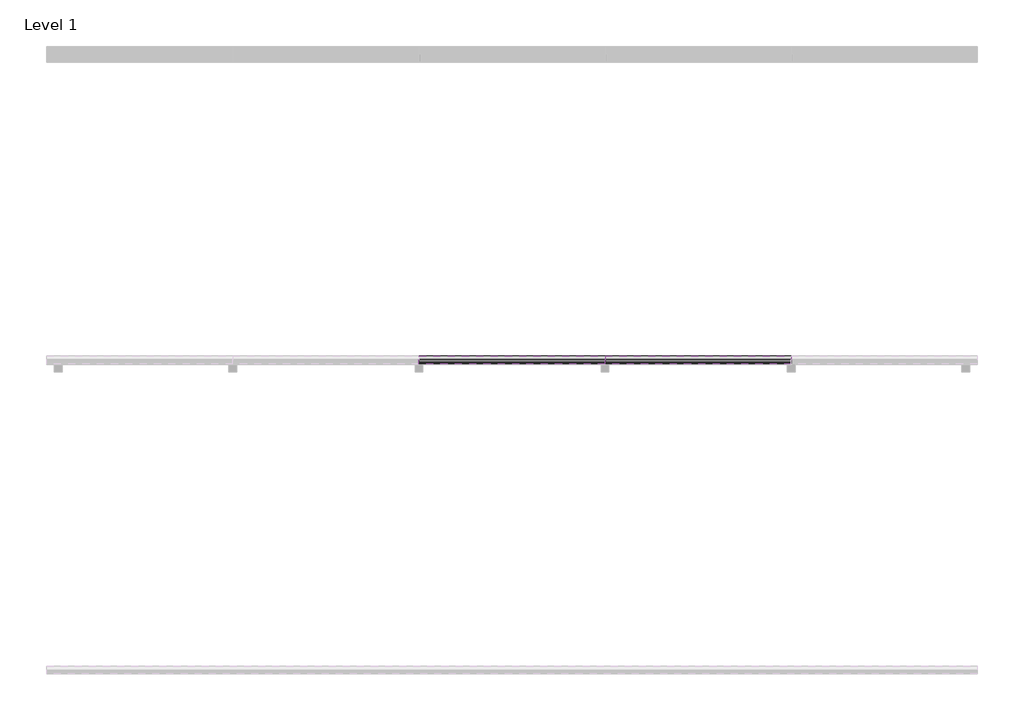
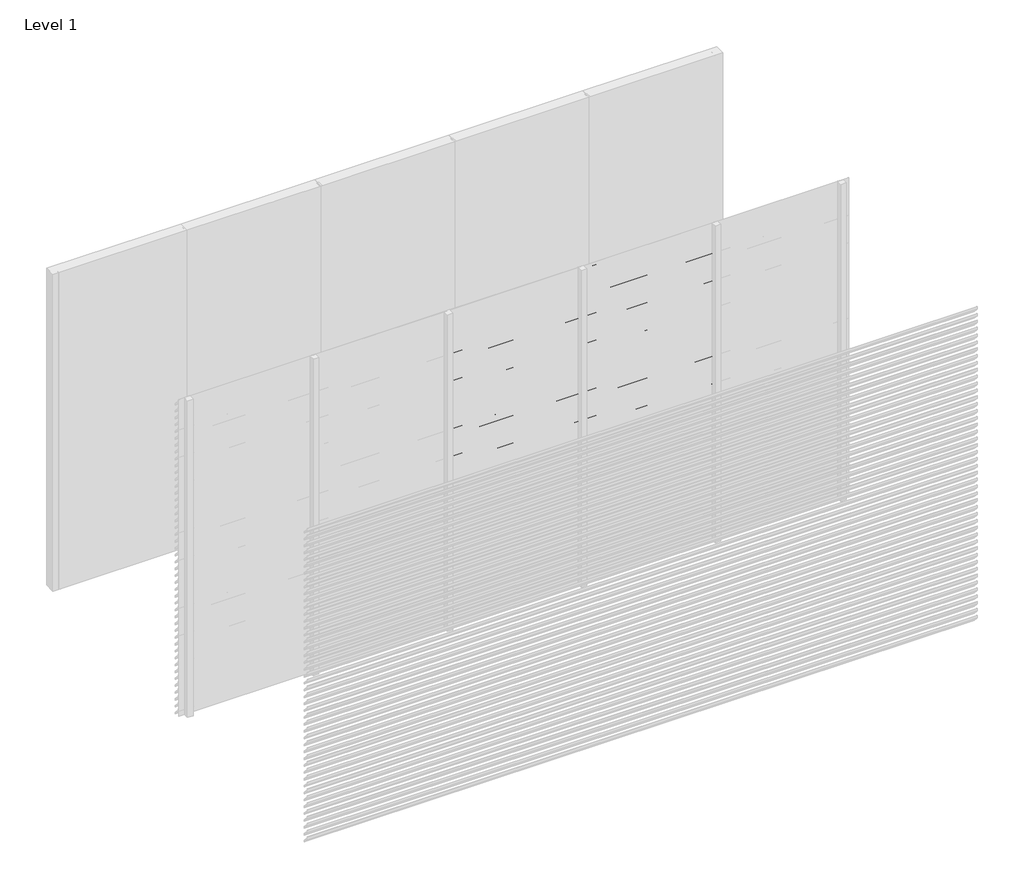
# One storey, part 6 of 12: 97 proxies.
"""IFC4 building model written with IfcOpenShell, lengths in millimetres."""

from ifc_helpers import new_model, si_unit, frame, origin, place, context, project, spatial, polyline, outline, extrude, element, save

model = new_model("IFC4")

# Units and contexts
model_context = context("Model", 3, world=origin())
ifc_project = project(units=[si_unit("LENGTHUNIT", "METRE", prefix="MILLI")], contexts=[model_context])

# Site, building, storey
site = spatial("IfcSite", under=ifc_project)
building = spatial("IfcBuilding", under=site)
storey = spatial("IfcBuildingStorey", under=building, Name="Level 1", Elevation=0.0)

# Proxies
placement = place(None, origin())
element("IfcBuildingElementProxy", 1, Name="Wall Sweeps", at=placement, inside=storey, context=model_context, shape_type="SweptSolid", body=[
    extrude(outline(polyline([(-11995.0, 65.0), (-11995.0, 55.7409854), (-11946.0, 5.0), (-11946.0, -11.0), (-11997.0, 41.812046), (-11997.0, 65.0), (-11995.0, 65.0)])), frame((1200.0, 0.0, 0.0), z_axis=(1.0, 0.0, 0.0), x_axis=(0.0, 1.0, 0.0)), (0.0, 0.0, 1.0), 1200.0),
])
element("IfcBuildingElementProxy", 2, Name="Wall Sweeps", at=placement, inside=storey, context=model_context, shape_type="SweptSolid", body=[
    extrude(outline(polyline([(-11995.0, 2990.0), (-11995.0, 2980.7409854), (-11946.0, 2930.0), (-11946.0, 2914.0), (-11997.0, 2966.812046), (-11997.0, 2990.0), (-11995.0, 2990.0)])), frame((2400.0, 0.0, 0.0), z_axis=(1.0, 0.0, 0.0), x_axis=(0.0, 1.0, 0.0)), (0.0, 0.0, 1.0), 1200.0),
])
element("IfcBuildingElementProxy", 3, Name="Wall Sweeps", at=placement, inside=storey, context=model_context, shape_type="SweptSolid", body=[
    extrude(outline(polyline([(-11995.0, 2925.0), (-11995.0, 2915.7409854), (-11946.0, 2865.0), (-11946.0, 2849.0), (-11997.0, 2901.812046), (-11997.0, 2925.0), (-11995.0, 2925.0)])), frame((2400.0, 0.0, 0.0), z_axis=(1.0, 0.0, 0.0), x_axis=(0.0, 1.0, 0.0)), (0.0, 0.0, 1.0), 1200.0),
])
element("IfcBuildingElementProxy", 4, Name="Wall Sweeps", at=placement, inside=storey, context=model_context, shape_type="SweptSolid", body=[
    extrude(outline(polyline([(-11995.0, 2860.0), (-11995.0, 2850.7409854), (-11946.0, 2800.0), (-11946.0, 2784.0), (-11997.0, 2836.812046), (-11997.0, 2860.0), (-11995.0, 2860.0)])), frame((2400.0, 0.0, 0.0), z_axis=(1.0, 0.0, 0.0), x_axis=(0.0, 1.0, 0.0)), (0.0, 0.0, 1.0), 1200.0),
])
element("IfcBuildingElementProxy", 5, Name="Wall Sweeps", at=placement, inside=storey, context=model_context, shape_type="SweptSolid", body=[
    extrude(outline(polyline([(-11995.0, 2795.0), (-11995.0, 2785.7409854), (-11946.0, 2735.0), (-11946.0, 2719.0), (-11997.0, 2771.812046), (-11997.0, 2795.0), (-11995.0, 2795.0)])), frame((2400.0, 0.0, 0.0), z_axis=(1.0, 0.0, 0.0), x_axis=(0.0, 1.0, 0.0)), (0.0, 0.0, 1.0), 1200.0),
])
element("IfcBuildingElementProxy", 6, Name="Wall Sweeps", at=placement, inside=storey, context=model_context, shape_type="SweptSolid", body=[
    extrude(outline(polyline([(-11995.0, 2730.0), (-11995.0, 2720.7409854), (-11946.0, 2670.0), (-11946.0, 2654.0), (-11997.0, 2706.812046), (-11997.0, 2730.0), (-11995.0, 2730.0)])), frame((2400.0, 0.0, 0.0), z_axis=(1.0, 0.0, 0.0), x_axis=(0.0, 1.0, 0.0)), (0.0, 0.0, 1.0), 1200.0),
])
element("IfcBuildingElementProxy", 7, Name="Wall Sweeps", at=placement, inside=storey, context=model_context, shape_type="SweptSolid", body=[
    extrude(outline(polyline([(-11995.0, 2665.0), (-11995.0, 2655.7409854), (-11946.0, 2605.0), (-11946.0, 2589.0), (-11997.0, 2641.812046), (-11997.0, 2665.0), (-11995.0, 2665.0)])), frame((2400.0, 0.0, 0.0), z_axis=(1.0, 0.0, 0.0), x_axis=(0.0, 1.0, 0.0)), (0.0, 0.0, 1.0), 1200.0),
])
element("IfcBuildingElementProxy", 8, Name="Wall Sweeps", at=placement, inside=storey, context=model_context, shape_type="SweptSolid", body=[
    extrude(outline(polyline([(-11995.0, 2600.0), (-11995.0, 2590.7409854), (-11946.0, 2540.0), (-11946.0, 2524.0), (-11997.0, 2576.812046), (-11997.0, 2600.0), (-11995.0, 2600.0)])), frame((2400.0, 0.0, 0.0), z_axis=(1.0, 0.0, 0.0), x_axis=(0.0, 1.0, 0.0)), (0.0, 0.0, 1.0), 1200.0),
])
element("IfcBuildingElementProxy", 9, Name="Wall Sweeps", at=placement, inside=storey, context=model_context, shape_type="SweptSolid", body=[
    extrude(outline(polyline([(-11995.0, 2535.0), (-11995.0, 2525.7409854), (-11946.0, 2475.0), (-11946.0, 2459.0), (-11997.0, 2511.812046), (-11997.0, 2535.0), (-11995.0, 2535.0)])), frame((2400.0, 0.0, 0.0), z_axis=(1.0, 0.0, 0.0), x_axis=(0.0, 1.0, 0.0)), (0.0, 0.0, 1.0), 1200.0),
])
element("IfcBuildingElementProxy", 10, Name="Wall Sweeps", at=placement, inside=storey, context=model_context, shape_type="SweptSolid", body=[
    extrude(outline(polyline([(-11995.0, 2470.0), (-11995.0, 2460.7409854), (-11946.0, 2410.0), (-11946.0, 2394.0), (-11997.0, 2446.812046), (-11997.0, 2470.0), (-11995.0, 2470.0)])), frame((2400.0, 0.0, 0.0), z_axis=(1.0, 0.0, 0.0), x_axis=(0.0, 1.0, 0.0)), (0.0, 0.0, 1.0), 1200.0),
])
element("IfcBuildingElementProxy", 11, Name="Wall Sweeps", at=placement, inside=storey, context=model_context, shape_type="SweptSolid", body=[
    extrude(outline(polyline([(-11995.0, 2405.0), (-11995.0, 2395.7409854), (-11946.0, 2345.0), (-11946.0, 2329.0), (-11997.0, 2381.812046), (-11997.0, 2405.0), (-11995.0, 2405.0)])), frame((2400.0, 0.0, 0.0), z_axis=(1.0, 0.0, 0.0), x_axis=(0.0, 1.0, 0.0)), (0.0, 0.0, 1.0), 1200.0),
])
element("IfcBuildingElementProxy", 12, Name="Wall Sweeps", at=placement, inside=storey, context=model_context, shape_type="SweptSolid", body=[
    extrude(outline(polyline([(-11995.0, 2340.0), (-11995.0, 2330.7409854), (-11946.0, 2280.0), (-11946.0, 2264.0), (-11997.0, 2316.812046), (-11997.0, 2340.0), (-11995.0, 2340.0)])), frame((2400.0, 0.0, 0.0), z_axis=(1.0, 0.0, 0.0), x_axis=(0.0, 1.0, 0.0)), (0.0, 0.0, 1.0), 1200.0),
])
element("IfcBuildingElementProxy", 13, Name="Wall Sweeps", at=placement, inside=storey, context=model_context, shape_type="SweptSolid", body=[
    extrude(outline(polyline([(-11995.0, 2275.0), (-11995.0, 2265.7409854), (-11946.0, 2215.0), (-11946.0, 2199.0), (-11997.0, 2251.812046), (-11997.0, 2275.0), (-11995.0, 2275.0)])), frame((2400.0, 0.0, 0.0), z_axis=(1.0, 0.0, 0.0), x_axis=(0.0, 1.0, 0.0)), (0.0, 0.0, 1.0), 1200.0),
])
element("IfcBuildingElementProxy", 14, Name="Wall Sweeps", at=placement, inside=storey, context=model_context, shape_type="SweptSolid", body=[
    extrude(outline(polyline([(-11995.0, 2210.0), (-11995.0, 2200.7409854), (-11946.0, 2150.0), (-11946.0, 2134.0), (-11997.0, 2186.812046), (-11997.0, 2210.0), (-11995.0, 2210.0)])), frame((2400.0, 0.0, 0.0), z_axis=(1.0, 0.0, 0.0), x_axis=(0.0, 1.0, 0.0)), (0.0, 0.0, 1.0), 1200.0),
])
element("IfcBuildingElementProxy", 15, Name="Wall Sweeps", at=placement, inside=storey, context=model_context, shape_type="SweptSolid", body=[
    extrude(outline(polyline([(-11995.0, 2145.0), (-11995.0, 2135.7409854), (-11946.0, 2085.0), (-11946.0, 2069.0), (-11997.0, 2121.812046), (-11997.0, 2145.0), (-11995.0, 2145.0)])), frame((2400.0, 0.0, 0.0), z_axis=(1.0, 0.0, 0.0), x_axis=(0.0, 1.0, 0.0)), (0.0, 0.0, 1.0), 1200.0),
])
element("IfcBuildingElementProxy", 16, Name="Wall Sweeps", at=placement, inside=storey, context=model_context, shape_type="SweptSolid", body=[
    extrude(outline(polyline([(-11995.0, 2080.0), (-11995.0, 2070.7409854), (-11946.0, 2020.0), (-11946.0, 2004.0), (-11997.0, 2056.812046), (-11997.0, 2080.0), (-11995.0, 2080.0)])), frame((2400.0, 0.0, 0.0), z_axis=(1.0, 0.0, 0.0), x_axis=(0.0, 1.0, 0.0)), (0.0, 0.0, 1.0), 1200.0),
])
element("IfcBuildingElementProxy", 17, Name="Wall Sweeps", at=placement, inside=storey, context=model_context, shape_type="SweptSolid", body=[
    extrude(outline(polyline([(-11995.0, 2015.0), (-11995.0, 2005.7409854), (-11946.0, 1955.0), (-11946.0, 1939.0), (-11997.0, 1991.812046), (-11997.0, 2015.0), (-11995.0, 2015.0)])), frame((2400.0, 0.0, 0.0), z_axis=(1.0, 0.0, 0.0), x_axis=(0.0, 1.0, 0.0)), (0.0, 0.0, 1.0), 1200.0),
])
element("IfcBuildingElementProxy", 18, Name="Wall Sweeps", at=placement, inside=storey, context=model_context, shape_type="SweptSolid", body=[
    extrude(outline(polyline([(-11995.0, 1950.0), (-11995.0, 1940.7409854), (-11946.0, 1890.0), (-11946.0, 1874.0), (-11997.0, 1926.812046), (-11997.0, 1950.0), (-11995.0, 1950.0)])), frame((2400.0, 0.0, 0.0), z_axis=(1.0, 0.0, 0.0), x_axis=(0.0, 1.0, 0.0)), (0.0, 0.0, 1.0), 1200.0),
])
element("IfcBuildingElementProxy", 19, Name="Wall Sweeps", at=placement, inside=storey, context=model_context, shape_type="SweptSolid", body=[
    extrude(outline(polyline([(-11995.0, 1885.0), (-11995.0, 1875.7409854), (-11946.0, 1825.0), (-11946.0, 1809.0), (-11997.0, 1861.812046), (-11997.0, 1885.0), (-11995.0, 1885.0)])), frame((2400.0, 0.0, 0.0), z_axis=(1.0, 0.0, 0.0), x_axis=(0.0, 1.0, 0.0)), (0.0, 0.0, 1.0), 1200.0),
])
element("IfcBuildingElementProxy", 20, Name="Wall Sweeps", at=placement, inside=storey, context=model_context, shape_type="SweptSolid", body=[
    extrude(outline(polyline([(-11995.0, 1820.0), (-11995.0, 1810.7409854), (-11946.0, 1760.0), (-11946.0, 1744.0), (-11997.0, 1796.812046), (-11997.0, 1820.0), (-11995.0, 1820.0)])), frame((2400.0, 0.0, 0.0), z_axis=(1.0, 0.0, 0.0), x_axis=(0.0, 1.0, 0.0)), (0.0, 0.0, 1.0), 1200.0),
])
element("IfcBuildingElementProxy", 21, Name="Wall Sweeps", at=placement, inside=storey, context=model_context, shape_type="SweptSolid", body=[
    extrude(outline(polyline([(-11995.0, 1755.0), (-11995.0, 1745.7409854), (-11946.0, 1695.0), (-11946.0, 1679.0), (-11997.0, 1731.812046), (-11997.0, 1755.0), (-11995.0, 1755.0)])), frame((2400.0, 0.0, 0.0), z_axis=(1.0, 0.0, 0.0), x_axis=(0.0, 1.0, 0.0)), (0.0, 0.0, 1.0), 1200.0),
])
element("IfcBuildingElementProxy", 22, Name="Wall Sweeps", at=placement, inside=storey, context=model_context, shape_type="SweptSolid", body=[
    extrude(outline(polyline([(-11995.0, 1690.0), (-11995.0, 1680.7409854), (-11946.0, 1630.0), (-11946.0, 1614.0), (-11997.0, 1666.812046), (-11997.0, 1690.0), (-11995.0, 1690.0)])), frame((2400.0, 0.0, 0.0), z_axis=(1.0, 0.0, 0.0), x_axis=(0.0, 1.0, 0.0)), (0.0, 0.0, 1.0), 1200.0),
])
element("IfcBuildingElementProxy", 23, Name="Wall Sweeps", at=placement, inside=storey, context=model_context, shape_type="SweptSolid", body=[
    extrude(outline(polyline([(-11995.0, 1625.0), (-11995.0, 1615.7409854), (-11946.0, 1565.0), (-11946.0, 1549.0), (-11997.0, 1601.812046), (-11997.0, 1625.0), (-11995.0, 1625.0)])), frame((2400.0, 0.0, 0.0), z_axis=(1.0, 0.0, 0.0), x_axis=(0.0, 1.0, 0.0)), (0.0, 0.0, 1.0), 1200.0),
])
element("IfcBuildingElementProxy", 24, Name="Wall Sweeps", at=placement, inside=storey, context=model_context, shape_type="SweptSolid", body=[
    extrude(outline(polyline([(-11995.0, 1560.0), (-11995.0, 1550.7409854), (-11946.0, 1500.0), (-11946.0, 1484.0), (-11997.0, 1536.812046), (-11997.0, 1560.0), (-11995.0, 1560.0)])), frame((2400.0, 0.0, 0.0), z_axis=(1.0, 0.0, 0.0), x_axis=(0.0, 1.0, 0.0)), (0.0, 0.0, 1.0), 1200.0),
])
element("IfcBuildingElementProxy", 25, Name="Wall Sweeps", at=placement, inside=storey, context=model_context, shape_type="SweptSolid", body=[
    extrude(outline(polyline([(-11995.0, 1495.0), (-11995.0, 1485.7409854), (-11946.0, 1435.0), (-11946.0, 1419.0), (-11997.0, 1471.812046), (-11997.0, 1495.0), (-11995.0, 1495.0)])), frame((2400.0, 0.0, 0.0), z_axis=(1.0, 0.0, 0.0), x_axis=(0.0, 1.0, 0.0)), (0.0, 0.0, 1.0), 1200.0),
])
element("IfcBuildingElementProxy", 26, Name="Wall Sweeps", at=placement, inside=storey, context=model_context, shape_type="SweptSolid", body=[
    extrude(outline(polyline([(-11995.0, 1430.0), (-11995.0, 1420.7409854), (-11946.0, 1370.0), (-11946.0, 1354.0), (-11997.0, 1406.812046), (-11997.0, 1430.0), (-11995.0, 1430.0)])), frame((2400.0, 0.0, 0.0), z_axis=(1.0, 0.0, 0.0), x_axis=(0.0, 1.0, 0.0)), (0.0, 0.0, 1.0), 1200.0),
])
element("IfcBuildingElementProxy", 27, Name="Wall Sweeps", at=placement, inside=storey, context=model_context, shape_type="SweptSolid", body=[
    extrude(outline(polyline([(-11995.0, 1365.0), (-11995.0, 1355.7409854), (-11946.0, 1305.0), (-11946.0, 1289.0), (-11997.0, 1341.812046), (-11997.0, 1365.0), (-11995.0, 1365.0)])), frame((2400.0, 0.0, 0.0), z_axis=(1.0, 0.0, 0.0), x_axis=(0.0, 1.0, 0.0)), (0.0, 0.0, 1.0), 1200.0),
])
element("IfcBuildingElementProxy", 28, Name="Wall Sweeps", at=placement, inside=storey, context=model_context, shape_type="SweptSolid", body=[
    extrude(outline(polyline([(-11995.0, 1300.0), (-11995.0, 1290.7409854), (-11946.0, 1240.0), (-11946.0, 1224.0), (-11997.0, 1276.812046), (-11997.0, 1300.0), (-11995.0, 1300.0)])), frame((2400.0, 0.0, 0.0), z_axis=(1.0, 0.0, 0.0), x_axis=(0.0, 1.0, 0.0)), (0.0, 0.0, 1.0), 1200.0),
])
element("IfcBuildingElementProxy", 29, Name="Wall Sweeps", at=placement, inside=storey, context=model_context, shape_type="SweptSolid", body=[
    extrude(outline(polyline([(-11995.0, 1235.0), (-11995.0, 1225.7409854), (-11946.0, 1175.0), (-11946.0, 1159.0), (-11997.0, 1211.812046), (-11997.0, 1235.0), (-11995.0, 1235.0)])), frame((2400.0, 0.0, 0.0), z_axis=(1.0, 0.0, 0.0), x_axis=(0.0, 1.0, 0.0)), (0.0, 0.0, 1.0), 1200.0),
])
element("IfcBuildingElementProxy", 30, Name="Wall Sweeps", at=placement, inside=storey, context=model_context, shape_type="SweptSolid", body=[
    extrude(outline(polyline([(-11995.0, 1170.0), (-11995.0, 1160.7409854), (-11946.0, 1110.0), (-11946.0, 1094.0), (-11997.0, 1146.812046), (-11997.0, 1170.0), (-11995.0, 1170.0)])), frame((2400.0, 0.0, 0.0), z_axis=(1.0, 0.0, 0.0), x_axis=(0.0, 1.0, 0.0)), (0.0, 0.0, 1.0), 1200.0),
])
element("IfcBuildingElementProxy", 31, Name="Wall Sweeps", at=placement, inside=storey, context=model_context, shape_type="SweptSolid", body=[
    extrude(outline(polyline([(-11995.0, 1105.0), (-11995.0, 1095.7409854), (-11946.0, 1045.0), (-11946.0, 1029.0), (-11997.0, 1081.812046), (-11997.0, 1105.0), (-11995.0, 1105.0)])), frame((2400.0, 0.0, 0.0), z_axis=(1.0, 0.0, 0.0), x_axis=(0.0, 1.0, 0.0)), (0.0, 0.0, 1.0), 1200.0),
])
element("IfcBuildingElementProxy", 32, Name="Wall Sweeps", at=placement, inside=storey, context=model_context, shape_type="SweptSolid", body=[
    extrude(outline(polyline([(-11995.0, 1040.0), (-11995.0, 1030.7409854), (-11946.0, 980.0), (-11946.0, 964.0), (-11997.0, 1016.812046), (-11997.0, 1040.0), (-11995.0, 1040.0)])), frame((2400.0, 0.0, 0.0), z_axis=(1.0, 0.0, 0.0), x_axis=(0.0, 1.0, 0.0)), (0.0, 0.0, 1.0), 1200.0),
])
element("IfcBuildingElementProxy", 33, Name="Wall Sweeps", at=placement, inside=storey, context=model_context, shape_type="SweptSolid", body=[
    extrude(outline(polyline([(-11995.0, 975.0), (-11995.0, 965.7409854), (-11946.0, 915.0), (-11946.0, 899.0), (-11997.0, 951.812046), (-11997.0, 975.0), (-11995.0, 975.0)])), frame((2400.0, 0.0, 0.0), z_axis=(1.0, 0.0, 0.0), x_axis=(0.0, 1.0, 0.0)), (0.0, 0.0, 1.0), 1200.0),
])
element("IfcBuildingElementProxy", 34, Name="Wall Sweeps", at=placement, inside=storey, context=model_context, shape_type="SweptSolid", body=[
    extrude(outline(polyline([(-11995.0, 910.0), (-11995.0, 900.7409854), (-11946.0, 850.0), (-11946.0, 834.0), (-11997.0, 886.812046), (-11997.0, 910.0), (-11995.0, 910.0)])), frame((2400.0, 0.0, 0.0), z_axis=(1.0, 0.0, 0.0), x_axis=(0.0, 1.0, 0.0)), (0.0, 0.0, 1.0), 1200.0),
])
element("IfcBuildingElementProxy", 35, Name="Wall Sweeps", at=placement, inside=storey, context=model_context, shape_type="SweptSolid", body=[
    extrude(outline(polyline([(-11995.0, 845.0), (-11995.0, 835.7409854), (-11946.0, 785.0), (-11946.0, 769.0), (-11997.0, 821.812046), (-11997.0, 845.0), (-11995.0, 845.0)])), frame((2400.0, 0.0, 0.0), z_axis=(1.0, 0.0, 0.0), x_axis=(0.0, 1.0, 0.0)), (0.0, 0.0, 1.0), 1200.0),
])
element("IfcBuildingElementProxy", 36, Name="Wall Sweeps", at=placement, inside=storey, context=model_context, shape_type="SweptSolid", body=[
    extrude(outline(polyline([(-11995.0, 780.0), (-11995.0, 770.7409854), (-11946.0, 720.0), (-11946.0, 704.0), (-11997.0, 756.812046), (-11997.0, 780.0), (-11995.0, 780.0)])), frame((2400.0, 0.0, 0.0), z_axis=(1.0, 0.0, 0.0), x_axis=(0.0, 1.0, 0.0)), (0.0, 0.0, 1.0), 1200.0),
])
element("IfcBuildingElementProxy", 37, Name="Wall Sweeps", at=placement, inside=storey, context=model_context, shape_type="SweptSolid", body=[
    extrude(outline(polyline([(-11995.0, 715.0), (-11995.0, 705.7409854), (-11946.0, 655.0), (-11946.0, 639.0), (-11997.0, 691.812046), (-11997.0, 715.0), (-11995.0, 715.0)])), frame((2400.0, 0.0, 0.0), z_axis=(1.0, 0.0, 0.0), x_axis=(0.0, 1.0, 0.0)), (0.0, 0.0, 1.0), 1200.0),
])
element("IfcBuildingElementProxy", 38, Name="Wall Sweeps", at=placement, inside=storey, context=model_context, shape_type="SweptSolid", body=[
    extrude(outline(polyline([(-11995.0, 650.0), (-11995.0, 640.7409854), (-11946.0, 590.0), (-11946.0, 574.0), (-11997.0, 626.812046), (-11997.0, 650.0), (-11995.0, 650.0)])), frame((2400.0, 0.0, 0.0), z_axis=(1.0, 0.0, 0.0), x_axis=(0.0, 1.0, 0.0)), (0.0, 0.0, 1.0), 1200.0),
])
element("IfcBuildingElementProxy", 39, Name="Wall Sweeps", at=placement, inside=storey, context=model_context, shape_type="SweptSolid", body=[
    extrude(outline(polyline([(-11995.0, 585.0), (-11995.0, 575.7409854), (-11946.0, 525.0), (-11946.0, 509.0), (-11997.0, 561.812046), (-11997.0, 585.0), (-11995.0, 585.0)])), frame((2400.0, 0.0, 0.0), z_axis=(1.0, 0.0, 0.0), x_axis=(0.0, 1.0, 0.0)), (0.0, 0.0, 1.0), 1200.0),
])
element("IfcBuildingElementProxy", 40, Name="Wall Sweeps", at=placement, inside=storey, context=model_context, shape_type="SweptSolid", body=[
    extrude(outline(polyline([(-11995.0, 520.0), (-11995.0, 510.7409854), (-11946.0, 460.0), (-11946.0, 444.0), (-11997.0, 496.812046), (-11997.0, 520.0), (-11995.0, 520.0)])), frame((2400.0, 0.0, 0.0), z_axis=(1.0, 0.0, 0.0), x_axis=(0.0, 1.0, 0.0)), (0.0, 0.0, 1.0), 1200.0),
])
element("IfcBuildingElementProxy", 41, Name="Wall Sweeps", at=placement, inside=storey, context=model_context, shape_type="SweptSolid", body=[
    extrude(outline(polyline([(-11995.0, 455.0), (-11995.0, 445.7409854), (-11946.0, 395.0), (-11946.0, 379.0), (-11997.0, 431.812046), (-11997.0, 455.0), (-11995.0, 455.0)])), frame((2400.0, 0.0, 0.0), z_axis=(1.0, 0.0, 0.0), x_axis=(0.0, 1.0, 0.0)), (0.0, 0.0, 1.0), 1200.0),
])
element("IfcBuildingElementProxy", 42, Name="Wall Sweeps", at=placement, inside=storey, context=model_context, shape_type="SweptSolid", body=[
    extrude(outline(polyline([(-11995.0, 390.0), (-11995.0, 380.7409854), (-11946.0, 330.0), (-11946.0, 314.0), (-11997.0, 366.812046), (-11997.0, 390.0), (-11995.0, 390.0)])), frame((2400.0, 0.0, 0.0), z_axis=(1.0, 0.0, 0.0), x_axis=(0.0, 1.0, 0.0)), (0.0, 0.0, 1.0), 1200.0),
])
element("IfcBuildingElementProxy", 43, Name="Wall Sweeps", at=placement, inside=storey, context=model_context, shape_type="SweptSolid", body=[
    extrude(outline(polyline([(-11995.0, 325.0), (-11995.0, 315.7409854), (-11946.0, 265.0), (-11946.0, 249.0), (-11997.0, 301.812046), (-11997.0, 325.0), (-11995.0, 325.0)])), frame((2400.0, 0.0, 0.0), z_axis=(1.0, 0.0, 0.0), x_axis=(0.0, 1.0, 0.0)), (0.0, 0.0, 1.0), 1200.0),
])
element("IfcBuildingElementProxy", 44, Name="Wall Sweeps", at=placement, inside=storey, context=model_context, shape_type="SweptSolid", body=[
    extrude(outline(polyline([(-11995.0, 260.0), (-11995.0, 250.7409854), (-11946.0, 200.0), (-11946.0, 184.0), (-11997.0, 236.812046), (-11997.0, 260.0), (-11995.0, 260.0)])), frame((2400.0, 0.0, 0.0), z_axis=(1.0, 0.0, 0.0), x_axis=(0.0, 1.0, 0.0)), (0.0, 0.0, 1.0), 1200.0),
])
element("IfcBuildingElementProxy", 45, Name="Wall Sweeps", at=placement, inside=storey, context=model_context, shape_type="SweptSolid", body=[
    extrude(outline(polyline([(-11995.0, 195.0), (-11995.0, 185.7409854), (-11946.0, 135.0), (-11946.0, 119.0), (-11997.0, 171.812046), (-11997.0, 195.0), (-11995.0, 195.0)])), frame((2400.0, 0.0, 0.0), z_axis=(1.0, 0.0, 0.0), x_axis=(0.0, 1.0, 0.0)), (0.0, 0.0, 1.0), 1200.0),
])
element("IfcBuildingElementProxy", 46, Name="Wall Sweeps", at=placement, inside=storey, context=model_context, shape_type="SweptSolid", body=[
    extrude(outline(polyline([(-11995.0, 130.0), (-11995.0, 120.7409854), (-11946.0, 70.0), (-11946.0, 54.0), (-11997.0, 106.812046), (-11997.0, 130.0), (-11995.0, 130.0)])), frame((2400.0, 0.0, 0.0), z_axis=(1.0, 0.0, 0.0), x_axis=(0.0, 1.0, 0.0)), (0.0, 0.0, 1.0), 1200.0),
])
element("IfcBuildingElementProxy", 47, Name="Wall Sweeps", at=placement, inside=storey, context=model_context, shape_type="SweptSolid", body=[
    extrude(outline(polyline([(-11995.0, 65.0), (-11995.0, 55.7409854), (-11946.0, 5.0), (-11946.0, -11.0), (-11997.0, 41.812046), (-11997.0, 65.0), (-11995.0, 65.0)])), frame((2400.0, 0.0, 0.0), z_axis=(1.0, 0.0, 0.0), x_axis=(0.0, 1.0, 0.0)), (0.0, 0.0, 1.0), 1200.0),
])
element("IfcBuildingElementProxy", 48, Name="Wall Sweeps", at=placement, inside=storey, context=model_context, shape_type="SweptSolid", body=[
    extrude(outline(polyline([(-11995.0, 2990.0), (-11995.0, 2980.7409854), (-11946.0, 2930.0), (-11946.0, 2914.0), (-11997.0, 2966.812046), (-11997.0, 2990.0), (-11995.0, 2990.0)])), frame((3600.0, 0.0, 0.0), z_axis=(1.0, 0.0, 0.0), x_axis=(0.0, 1.0, 0.0)), (0.0, 0.0, 1.0), 1200.0),
])
element("IfcBuildingElementProxy", 49, Name="Wall Sweeps", at=placement, inside=storey, context=model_context, shape_type="SweptSolid", body=[
    extrude(outline(polyline([(-11995.0, 2925.0), (-11995.0, 2915.7409854), (-11946.0, 2865.0), (-11946.0, 2849.0), (-11997.0, 2901.812046), (-11997.0, 2925.0), (-11995.0, 2925.0)])), frame((3600.0, 0.0, 0.0), z_axis=(1.0, 0.0, 0.0), x_axis=(0.0, 1.0, 0.0)), (0.0, 0.0, 1.0), 1200.0),
])
element("IfcBuildingElementProxy", 50, Name="Wall Sweeps", at=placement, inside=storey, context=model_context, shape_type="SweptSolid", body=[
    extrude(outline(polyline([(-11995.0, 2860.0), (-11995.0, 2850.7409854), (-11946.0, 2800.0), (-11946.0, 2784.0), (-11997.0, 2836.812046), (-11997.0, 2860.0), (-11995.0, 2860.0)])), frame((3600.0, 0.0, 0.0), z_axis=(1.0, 0.0, 0.0), x_axis=(0.0, 1.0, 0.0)), (0.0, 0.0, 1.0), 1200.0),
])
element("IfcBuildingElementProxy", 51, Name="Wall Sweeps", at=placement, inside=storey, context=model_context, shape_type="SweptSolid", body=[
    extrude(outline(polyline([(-11995.0, 2795.0), (-11995.0, 2785.7409854), (-11946.0, 2735.0), (-11946.0, 2719.0), (-11997.0, 2771.812046), (-11997.0, 2795.0), (-11995.0, 2795.0)])), frame((3600.0, 0.0, 0.0), z_axis=(1.0, 0.0, 0.0), x_axis=(0.0, 1.0, 0.0)), (0.0, 0.0, 1.0), 1200.0),
])
element("IfcBuildingElementProxy", 52, Name="Wall Sweeps", at=placement, inside=storey, context=model_context, shape_type="SweptSolid", body=[
    extrude(outline(polyline([(-11995.0, 2730.0), (-11995.0, 2720.7409854), (-11946.0, 2670.0), (-11946.0, 2654.0), (-11997.0, 2706.812046), (-11997.0, 2730.0), (-11995.0, 2730.0)])), frame((3600.0, 0.0, 0.0), z_axis=(1.0, 0.0, 0.0), x_axis=(0.0, 1.0, 0.0)), (0.0, 0.0, 1.0), 1200.0),
])
element("IfcBuildingElementProxy", 53, Name="Wall Sweeps", at=placement, inside=storey, context=model_context, shape_type="SweptSolid", body=[
    extrude(outline(polyline([(-11995.0, 2665.0), (-11995.0, 2655.7409854), (-11946.0, 2605.0), (-11946.0, 2589.0), (-11997.0, 2641.812046), (-11997.0, 2665.0), (-11995.0, 2665.0)])), frame((3600.0, 0.0, 0.0), z_axis=(1.0, 0.0, 0.0), x_axis=(0.0, 1.0, 0.0)), (0.0, 0.0, 1.0), 1200.0),
])
element("IfcBuildingElementProxy", 54, Name="Wall Sweeps", at=placement, inside=storey, context=model_context, shape_type="SweptSolid", body=[
    extrude(outline(polyline([(-11995.0, 2600.0), (-11995.0, 2590.7409854), (-11946.0, 2540.0), (-11946.0, 2524.0), (-11997.0, 2576.812046), (-11997.0, 2600.0), (-11995.0, 2600.0)])), frame((3600.0, 0.0, 0.0), z_axis=(1.0, 0.0, 0.0), x_axis=(0.0, 1.0, 0.0)), (0.0, 0.0, 1.0), 1200.0),
])
element("IfcBuildingElementProxy", 55, Name="Wall Sweeps", at=placement, inside=storey, context=model_context, shape_type="SweptSolid", body=[
    extrude(outline(polyline([(-11995.0, 2535.0), (-11995.0, 2525.7409854), (-11946.0, 2475.0), (-11946.0, 2459.0), (-11997.0, 2511.812046), (-11997.0, 2535.0), (-11995.0, 2535.0)])), frame((3600.0, 0.0, 0.0), z_axis=(1.0, 0.0, 0.0), x_axis=(0.0, 1.0, 0.0)), (0.0, 0.0, 1.0), 1200.0),
])
element("IfcBuildingElementProxy", 56, Name="Wall Sweeps", at=placement, inside=storey, context=model_context, shape_type="SweptSolid", body=[
    extrude(outline(polyline([(-11995.0, 2470.0), (-11995.0, 2460.7409854), (-11946.0, 2410.0), (-11946.0, 2394.0), (-11997.0, 2446.812046), (-11997.0, 2470.0), (-11995.0, 2470.0)])), frame((3600.0, 0.0, 0.0), z_axis=(1.0, 0.0, 0.0), x_axis=(0.0, 1.0, 0.0)), (0.0, 0.0, 1.0), 1200.0),
])
element("IfcBuildingElementProxy", 57, Name="Wall Sweeps", at=placement, inside=storey, context=model_context, shape_type="SweptSolid", body=[
    extrude(outline(polyline([(-11995.0, 2405.0), (-11995.0, 2395.7409854), (-11946.0, 2345.0), (-11946.0, 2329.0), (-11997.0, 2381.812046), (-11997.0, 2405.0), (-11995.0, 2405.0)])), frame((3600.0, 0.0, 0.0), z_axis=(1.0, 0.0, 0.0), x_axis=(0.0, 1.0, 0.0)), (0.0, 0.0, 1.0), 1200.0),
])
element("IfcBuildingElementProxy", 58, Name="Wall Sweeps", at=placement, inside=storey, context=model_context, shape_type="SweptSolid", body=[
    extrude(outline(polyline([(-11995.0, 2340.0), (-11995.0, 2330.7409854), (-11946.0, 2280.0), (-11946.0, 2264.0), (-11997.0, 2316.812046), (-11997.0, 2340.0), (-11995.0, 2340.0)])), frame((3600.0, 0.0, 0.0), z_axis=(1.0, 0.0, 0.0), x_axis=(0.0, 1.0, 0.0)), (0.0, 0.0, 1.0), 1200.0),
])
element("IfcBuildingElementProxy", 59, Name="Wall Sweeps", at=placement, inside=storey, context=model_context, shape_type="SweptSolid", body=[
    extrude(outline(polyline([(-11995.0, 2275.0), (-11995.0, 2265.7409854), (-11946.0, 2215.0), (-11946.0, 2199.0), (-11997.0, 2251.812046), (-11997.0, 2275.0), (-11995.0, 2275.0)])), frame((3600.0, 0.0, 0.0), z_axis=(1.0, 0.0, 0.0), x_axis=(0.0, 1.0, 0.0)), (0.0, 0.0, 1.0), 1200.0),
])
element("IfcBuildingElementProxy", 60, Name="Wall Sweeps", at=placement, inside=storey, context=model_context, shape_type="SweptSolid", body=[
    extrude(outline(polyline([(-11995.0, 2210.0), (-11995.0, 2200.7409854), (-11946.0, 2150.0), (-11946.0, 2134.0), (-11997.0, 2186.812046), (-11997.0, 2210.0), (-11995.0, 2210.0)])), frame((3600.0, 0.0, 0.0), z_axis=(1.0, 0.0, 0.0), x_axis=(0.0, 1.0, 0.0)), (0.0, 0.0, 1.0), 1200.0),
])
element("IfcBuildingElementProxy", 61, Name="Wall Sweeps", at=placement, inside=storey, context=model_context, shape_type="SweptSolid", body=[
    extrude(outline(polyline([(-11995.0, 2145.0), (-11995.0, 2135.7409854), (-11946.0, 2085.0), (-11946.0, 2069.0), (-11997.0, 2121.812046), (-11997.0, 2145.0), (-11995.0, 2145.0)])), frame((3600.0, 0.0, 0.0), z_axis=(1.0, 0.0, 0.0), x_axis=(0.0, 1.0, 0.0)), (0.0, 0.0, 1.0), 1200.0),
])
element("IfcBuildingElementProxy", 62, Name="Wall Sweeps", at=placement, inside=storey, context=model_context, shape_type="SweptSolid", body=[
    extrude(outline(polyline([(-11995.0, 2080.0), (-11995.0, 2070.7409854), (-11946.0, 2020.0), (-11946.0, 2004.0), (-11997.0, 2056.812046), (-11997.0, 2080.0), (-11995.0, 2080.0)])), frame((3600.0, 0.0, 0.0), z_axis=(1.0, 0.0, 0.0), x_axis=(0.0, 1.0, 0.0)), (0.0, 0.0, 1.0), 1200.0),
])
element("IfcBuildingElementProxy", 63, Name="Wall Sweeps", at=placement, inside=storey, context=model_context, shape_type="SweptSolid", body=[
    extrude(outline(polyline([(-11995.0, 2015.0), (-11995.0, 2005.7409854), (-11946.0, 1955.0), (-11946.0, 1939.0), (-11997.0, 1991.812046), (-11997.0, 2015.0), (-11995.0, 2015.0)])), frame((3600.0, 0.0, 0.0), z_axis=(1.0, 0.0, 0.0), x_axis=(0.0, 1.0, 0.0)), (0.0, 0.0, 1.0), 1200.0),
])
element("IfcBuildingElementProxy", 64, Name="Wall Sweeps", at=placement, inside=storey, context=model_context, shape_type="SweptSolid", body=[
    extrude(outline(polyline([(-11995.0, 1950.0), (-11995.0, 1940.7409854), (-11946.0, 1890.0), (-11946.0, 1874.0), (-11997.0, 1926.812046), (-11997.0, 1950.0), (-11995.0, 1950.0)])), frame((3600.0, 0.0, 0.0), z_axis=(1.0, 0.0, 0.0), x_axis=(0.0, 1.0, 0.0)), (0.0, 0.0, 1.0), 1200.0),
])
element("IfcBuildingElementProxy", 65, Name="Wall Sweeps", at=placement, inside=storey, context=model_context, shape_type="SweptSolid", body=[
    extrude(outline(polyline([(-11995.0, 1885.0), (-11995.0, 1875.7409854), (-11946.0, 1825.0), (-11946.0, 1809.0), (-11997.0, 1861.812046), (-11997.0, 1885.0), (-11995.0, 1885.0)])), frame((3600.0, 0.0, 0.0), z_axis=(1.0, 0.0, 0.0), x_axis=(0.0, 1.0, 0.0)), (0.0, 0.0, 1.0), 1200.0),
])
element("IfcBuildingElementProxy", 66, Name="Wall Sweeps", at=placement, inside=storey, context=model_context, shape_type="SweptSolid", body=[
    extrude(outline(polyline([(-11995.0, 1820.0), (-11995.0, 1810.7409854), (-11946.0, 1760.0), (-11946.0, 1744.0), (-11997.0, 1796.812046), (-11997.0, 1820.0), (-11995.0, 1820.0)])), frame((3600.0, 0.0, 0.0), z_axis=(1.0, 0.0, 0.0), x_axis=(0.0, 1.0, 0.0)), (0.0, 0.0, 1.0), 1200.0),
])
element("IfcBuildingElementProxy", 67, Name="Wall Sweeps", at=placement, inside=storey, context=model_context, shape_type="SweptSolid", body=[
    extrude(outline(polyline([(-11995.0, 1755.0), (-11995.0, 1745.7409854), (-11946.0, 1695.0), (-11946.0, 1679.0), (-11997.0, 1731.812046), (-11997.0, 1755.0), (-11995.0, 1755.0)])), frame((3600.0, 0.0, 0.0), z_axis=(1.0, 0.0, 0.0), x_axis=(0.0, 1.0, 0.0)), (0.0, 0.0, 1.0), 1200.0),
])
element("IfcBuildingElementProxy", 68, Name="Wall Sweeps", at=placement, inside=storey, context=model_context, shape_type="SweptSolid", body=[
    extrude(outline(polyline([(-11995.0, 1690.0), (-11995.0, 1680.7409854), (-11946.0, 1630.0), (-11946.0, 1614.0), (-11997.0, 1666.812046), (-11997.0, 1690.0), (-11995.0, 1690.0)])), frame((3600.0, 0.0, 0.0), z_axis=(1.0, 0.0, 0.0), x_axis=(0.0, 1.0, 0.0)), (0.0, 0.0, 1.0), 1200.0),
])
element("IfcBuildingElementProxy", 69, Name="Wall Sweeps", at=placement, inside=storey, context=model_context, shape_type="SweptSolid", body=[
    extrude(outline(polyline([(-11995.0, 1625.0), (-11995.0, 1615.7409854), (-11946.0, 1565.0), (-11946.0, 1549.0), (-11997.0, 1601.812046), (-11997.0, 1625.0), (-11995.0, 1625.0)])), frame((3600.0, 0.0, 0.0), z_axis=(1.0, 0.0, 0.0), x_axis=(0.0, 1.0, 0.0)), (0.0, 0.0, 1.0), 1200.0),
])
element("IfcBuildingElementProxy", 70, Name="Wall Sweeps", at=placement, inside=storey, context=model_context, shape_type="SweptSolid", body=[
    extrude(outline(polyline([(-11995.0, 1560.0), (-11995.0, 1550.7409854), (-11946.0, 1500.0), (-11946.0, 1484.0), (-11997.0, 1536.812046), (-11997.0, 1560.0), (-11995.0, 1560.0)])), frame((3600.0, 0.0, 0.0), z_axis=(1.0, 0.0, 0.0), x_axis=(0.0, 1.0, 0.0)), (0.0, 0.0, 1.0), 1200.0),
])
element("IfcBuildingElementProxy", 71, Name="Wall Sweeps", at=placement, inside=storey, context=model_context, shape_type="SweptSolid", body=[
    extrude(outline(polyline([(-11995.0, 1495.0), (-11995.0, 1485.7409854), (-11946.0, 1435.0), (-11946.0, 1419.0), (-11997.0, 1471.812046), (-11997.0, 1495.0), (-11995.0, 1495.0)])), frame((3600.0, 0.0, 0.0), z_axis=(1.0, 0.0, 0.0), x_axis=(0.0, 1.0, 0.0)), (0.0, 0.0, 1.0), 1200.0),
])
element("IfcBuildingElementProxy", 72, Name="Wall Sweeps", at=placement, inside=storey, context=model_context, shape_type="SweptSolid", body=[
    extrude(outline(polyline([(-11995.0, 1430.0), (-11995.0, 1420.7409854), (-11946.0, 1370.0), (-11946.0, 1354.0), (-11997.0, 1406.812046), (-11997.0, 1430.0), (-11995.0, 1430.0)])), frame((3600.0, 0.0, 0.0), z_axis=(1.0, 0.0, 0.0), x_axis=(0.0, 1.0, 0.0)), (0.0, 0.0, 1.0), 1200.0),
])
element("IfcBuildingElementProxy", 73, Name="Wall Sweeps", at=placement, inside=storey, context=model_context, shape_type="SweptSolid", body=[
    extrude(outline(polyline([(-11995.0, 1365.0), (-11995.0, 1355.7409854), (-11946.0, 1305.0), (-11946.0, 1289.0), (-11997.0, 1341.812046), (-11997.0, 1365.0), (-11995.0, 1365.0)])), frame((3600.0, 0.0, 0.0), z_axis=(1.0, 0.0, 0.0), x_axis=(0.0, 1.0, 0.0)), (0.0, 0.0, 1.0), 1200.0),
])
element("IfcBuildingElementProxy", 74, Name="Wall Sweeps", at=placement, inside=storey, context=model_context, shape_type="SweptSolid", body=[
    extrude(outline(polyline([(-11995.0, 1300.0), (-11995.0, 1290.7409854), (-11946.0, 1240.0), (-11946.0, 1224.0), (-11997.0, 1276.812046), (-11997.0, 1300.0), (-11995.0, 1300.0)])), frame((3600.0, 0.0, 0.0), z_axis=(1.0, 0.0, 0.0), x_axis=(0.0, 1.0, 0.0)), (0.0, 0.0, 1.0), 1200.0),
])
element("IfcBuildingElementProxy", 75, Name="Wall Sweeps", at=placement, inside=storey, context=model_context, shape_type="SweptSolid", body=[
    extrude(outline(polyline([(-11995.0, 1235.0), (-11995.0, 1225.7409854), (-11946.0, 1175.0), (-11946.0, 1159.0), (-11997.0, 1211.812046), (-11997.0, 1235.0), (-11995.0, 1235.0)])), frame((3600.0, 0.0, 0.0), z_axis=(1.0, 0.0, 0.0), x_axis=(0.0, 1.0, 0.0)), (0.0, 0.0, 1.0), 1200.0),
])
element("IfcBuildingElementProxy", 76, Name="Wall Sweeps", at=placement, inside=storey, context=model_context, shape_type="SweptSolid", body=[
    extrude(outline(polyline([(-11995.0, 1170.0), (-11995.0, 1160.7409854), (-11946.0, 1110.0), (-11946.0, 1094.0), (-11997.0, 1146.812046), (-11997.0, 1170.0), (-11995.0, 1170.0)])), frame((3600.0, 0.0, 0.0), z_axis=(1.0, 0.0, 0.0), x_axis=(0.0, 1.0, 0.0)), (0.0, 0.0, 1.0), 1200.0),
])
element("IfcBuildingElementProxy", 77, Name="Wall Sweeps", at=placement, inside=storey, context=model_context, shape_type="SweptSolid", body=[
    extrude(outline(polyline([(-11995.0, 1105.0), (-11995.0, 1095.7409854), (-11946.0, 1045.0), (-11946.0, 1029.0), (-11997.0, 1081.812046), (-11997.0, 1105.0), (-11995.0, 1105.0)])), frame((3600.0, 0.0, 0.0), z_axis=(1.0, 0.0, 0.0), x_axis=(0.0, 1.0, 0.0)), (0.0, 0.0, 1.0), 1200.0),
])
element("IfcBuildingElementProxy", 78, Name="Wall Sweeps", at=placement, inside=storey, context=model_context, shape_type="SweptSolid", body=[
    extrude(outline(polyline([(-11995.0, 1040.0), (-11995.0, 1030.7409854), (-11946.0, 980.0), (-11946.0, 964.0), (-11997.0, 1016.812046), (-11997.0, 1040.0), (-11995.0, 1040.0)])), frame((3600.0, 0.0, 0.0), z_axis=(1.0, 0.0, 0.0), x_axis=(0.0, 1.0, 0.0)), (0.0, 0.0, 1.0), 1200.0),
])
element("IfcBuildingElementProxy", 79, Name="Wall Sweeps", at=placement, inside=storey, context=model_context, shape_type="SweptSolid", body=[
    extrude(outline(polyline([(-11995.0, 975.0), (-11995.0, 965.7409854), (-11946.0, 915.0), (-11946.0, 899.0), (-11997.0, 951.812046), (-11997.0, 975.0), (-11995.0, 975.0)])), frame((3600.0, 0.0, 0.0), z_axis=(1.0, 0.0, 0.0), x_axis=(0.0, 1.0, 0.0)), (0.0, 0.0, 1.0), 1200.0),
])
element("IfcBuildingElementProxy", 80, Name="Wall Sweeps", at=placement, inside=storey, context=model_context, shape_type="SweptSolid", body=[
    extrude(outline(polyline([(-11995.0, 910.0), (-11995.0, 900.7409854), (-11946.0, 850.0), (-11946.0, 834.0), (-11997.0, 886.812046), (-11997.0, 910.0), (-11995.0, 910.0)])), frame((3600.0, 0.0, 0.0), z_axis=(1.0, 0.0, 0.0), x_axis=(0.0, 1.0, 0.0)), (0.0, 0.0, 1.0), 1200.0),
])
element("IfcBuildingElementProxy", 81, Name="Wall Sweeps", at=placement, inside=storey, context=model_context, shape_type="SweptSolid", body=[
    extrude(outline(polyline([(-11995.0, 845.0), (-11995.0, 835.7409854), (-11946.0, 785.0), (-11946.0, 769.0), (-11997.0, 821.812046), (-11997.0, 845.0), (-11995.0, 845.0)])), frame((3600.0, 0.0, 0.0), z_axis=(1.0, 0.0, 0.0), x_axis=(0.0, 1.0, 0.0)), (0.0, 0.0, 1.0), 1200.0),
])
element("IfcBuildingElementProxy", 82, Name="Wall Sweeps", at=placement, inside=storey, context=model_context, shape_type="SweptSolid", body=[
    extrude(outline(polyline([(-11995.0, 780.0), (-11995.0, 770.7409854), (-11946.0, 720.0), (-11946.0, 704.0), (-11997.0, 756.812046), (-11997.0, 780.0), (-11995.0, 780.0)])), frame((3600.0, 0.0, 0.0), z_axis=(1.0, 0.0, 0.0), x_axis=(0.0, 1.0, 0.0)), (0.0, 0.0, 1.0), 1200.0),
])
element("IfcBuildingElementProxy", 83, Name="Wall Sweeps", at=placement, inside=storey, context=model_context, shape_type="SweptSolid", body=[
    extrude(outline(polyline([(-11995.0, 715.0), (-11995.0, 705.7409854), (-11946.0, 655.0), (-11946.0, 639.0), (-11997.0, 691.812046), (-11997.0, 715.0), (-11995.0, 715.0)])), frame((3600.0, 0.0, 0.0), z_axis=(1.0, 0.0, 0.0), x_axis=(0.0, 1.0, 0.0)), (0.0, 0.0, 1.0), 1200.0),
])
element("IfcBuildingElementProxy", 84, Name="Wall Sweeps", at=placement, inside=storey, context=model_context, shape_type="SweptSolid", body=[
    extrude(outline(polyline([(-11995.0, 650.0), (-11995.0, 640.7409854), (-11946.0, 590.0), (-11946.0, 574.0), (-11997.0, 626.812046), (-11997.0, 650.0), (-11995.0, 650.0)])), frame((3600.0, 0.0, 0.0), z_axis=(1.0, 0.0, 0.0), x_axis=(0.0, 1.0, 0.0)), (0.0, 0.0, 1.0), 1200.0),
])
element("IfcBuildingElementProxy", 85, Name="Wall Sweeps", at=placement, inside=storey, context=model_context, shape_type="SweptSolid", body=[
    extrude(outline(polyline([(-11995.0, 585.0), (-11995.0, 575.7409854), (-11946.0, 525.0), (-11946.0, 509.0), (-11997.0, 561.812046), (-11997.0, 585.0), (-11995.0, 585.0)])), frame((3600.0, 0.0, 0.0), z_axis=(1.0, 0.0, 0.0), x_axis=(0.0, 1.0, 0.0)), (0.0, 0.0, 1.0), 1200.0),
])
element("IfcBuildingElementProxy", 86, Name="Wall Sweeps", at=placement, inside=storey, context=model_context, shape_type="SweptSolid", body=[
    extrude(outline(polyline([(-11995.0, 520.0), (-11995.0, 510.7409854), (-11946.0, 460.0), (-11946.0, 444.0), (-11997.0, 496.812046), (-11997.0, 520.0), (-11995.0, 520.0)])), frame((3600.0, 0.0, 0.0), z_axis=(1.0, 0.0, 0.0), x_axis=(0.0, 1.0, 0.0)), (0.0, 0.0, 1.0), 1200.0),
])
element("IfcBuildingElementProxy", 87, Name="Wall Sweeps", at=placement, inside=storey, context=model_context, shape_type="SweptSolid", body=[
    extrude(outline(polyline([(-11995.0, 455.0), (-11995.0, 445.7409854), (-11946.0, 395.0), (-11946.0, 379.0), (-11997.0, 431.812046), (-11997.0, 455.0), (-11995.0, 455.0)])), frame((3600.0, 0.0, 0.0), z_axis=(1.0, 0.0, 0.0), x_axis=(0.0, 1.0, 0.0)), (0.0, 0.0, 1.0), 1200.0),
])
element("IfcBuildingElementProxy", 88, Name="Wall Sweeps", at=placement, inside=storey, context=model_context, shape_type="SweptSolid", body=[
    extrude(outline(polyline([(-11995.0, 390.0), (-11995.0, 380.7409854), (-11946.0, 330.0), (-11946.0, 314.0), (-11997.0, 366.812046), (-11997.0, 390.0), (-11995.0, 390.0)])), frame((3600.0, 0.0, 0.0), z_axis=(1.0, 0.0, 0.0), x_axis=(0.0, 1.0, 0.0)), (0.0, 0.0, 1.0), 1200.0),
])
element("IfcBuildingElementProxy", 89, Name="Wall Sweeps", at=placement, inside=storey, context=model_context, shape_type="SweptSolid", body=[
    extrude(outline(polyline([(-11995.0, 325.0), (-11995.0, 315.7409854), (-11946.0, 265.0), (-11946.0, 249.0), (-11997.0, 301.812046), (-11997.0, 325.0), (-11995.0, 325.0)])), frame((3600.0, 0.0, 0.0), z_axis=(1.0, 0.0, 0.0), x_axis=(0.0, 1.0, 0.0)), (0.0, 0.0, 1.0), 1200.0),
])
element("IfcBuildingElementProxy", 90, Name="Wall Sweeps", at=placement, inside=storey, context=model_context, shape_type="SweptSolid", body=[
    extrude(outline(polyline([(-11995.0, 260.0), (-11995.0, 250.7409854), (-11946.0, 200.0), (-11946.0, 184.0), (-11997.0, 236.812046), (-11997.0, 260.0), (-11995.0, 260.0)])), frame((3600.0, 0.0, 0.0), z_axis=(1.0, 0.0, 0.0), x_axis=(0.0, 1.0, 0.0)), (0.0, 0.0, 1.0), 1200.0),
])
element("IfcBuildingElementProxy", 91, Name="Wall Sweeps", at=placement, inside=storey, context=model_context, shape_type="SweptSolid", body=[
    extrude(outline(polyline([(-11995.0, 195.0), (-11995.0, 185.7409854), (-11946.0, 135.0), (-11946.0, 119.0), (-11997.0, 171.812046), (-11997.0, 195.0), (-11995.0, 195.0)])), frame((3600.0, 0.0, 0.0), z_axis=(1.0, 0.0, 0.0), x_axis=(0.0, 1.0, 0.0)), (0.0, 0.0, 1.0), 1200.0),
])
element("IfcBuildingElementProxy", 92, Name="Wall Sweeps", at=placement, inside=storey, context=model_context, shape_type="SweptSolid", body=[
    extrude(outline(polyline([(-11995.0, 130.0), (-11995.0, 120.7409854), (-11946.0, 70.0), (-11946.0, 54.0), (-11997.0, 106.812046), (-11997.0, 130.0), (-11995.0, 130.0)])), frame((3600.0, 0.0, 0.0), z_axis=(1.0, 0.0, 0.0), x_axis=(0.0, 1.0, 0.0)), (0.0, 0.0, 1.0), 1200.0),
])
element("IfcBuildingElementProxy", 93, Name="Wall Sweeps", at=placement, inside=storey, context=model_context, shape_type="SweptSolid", body=[
    extrude(outline(polyline([(-11995.0, 65.0), (-11995.0, 55.7409854), (-11946.0, 5.0), (-11946.0, -11.0), (-11997.0, 41.812046), (-11997.0, 65.0), (-11995.0, 65.0)])), frame((3600.0, 0.0, 0.0), z_axis=(1.0, 0.0, 0.0), x_axis=(0.0, 1.0, 0.0)), (0.0, 0.0, 1.0), 1200.0),
])
element("IfcBuildingElementProxy", 94, Name="Wall Sweeps", at=placement, inside=storey, context=model_context, shape_type="SweptSolid", body=[
    extrude(outline(polyline([(-11995.0, 2990.0), (-11995.0, 2980.7409854), (-11946.0, 2930.0), (-11946.0, 2914.0), (-11997.0, 2966.812046), (-11997.0, 2990.0), (-11995.0, 2990.0)])), frame((4800.0, 0.0, 0.0), z_axis=(1.0, 0.0, 0.0), x_axis=(0.0, 1.0, 0.0)), (0.0, 0.0, 1.0), 1200.0),
])
element("IfcBuildingElementProxy", 95, Name="Wall Sweeps", at=placement, inside=storey, context=model_context, shape_type="SweptSolid", body=[
    extrude(outline(polyline([(-11995.0, 2925.0), (-11995.0, 2915.7409854), (-11946.0, 2865.0), (-11946.0, 2849.0), (-11997.0, 2901.812046), (-11997.0, 2925.0), (-11995.0, 2925.0)])), frame((4800.0, 0.0, 0.0), z_axis=(1.0, 0.0, 0.0), x_axis=(0.0, 1.0, 0.0)), (0.0, 0.0, 1.0), 1200.0),
])
element("IfcBuildingElementProxy", 96, Name="Wall Sweeps", at=placement, inside=storey, context=model_context, shape_type="SweptSolid", body=[
    extrude(outline(polyline([(-11995.0, 2860.0), (-11995.0, 2850.7409854), (-11946.0, 2800.0), (-11946.0, 2784.0), (-11997.0, 2836.812046), (-11997.0, 2860.0), (-11995.0, 2860.0)])), frame((4800.0, 0.0, 0.0), z_axis=(1.0, 0.0, 0.0), x_axis=(0.0, 1.0, 0.0)), (0.0, 0.0, 1.0), 1200.0),
])
element("IfcBuildingElementProxy", 97, Name="Wall Sweeps", at=placement, inside=storey, context=model_context, shape_type="SweptSolid", body=[
    extrude(outline(polyline([(-11995.0, 2795.0), (-11995.0, 2785.7409854), (-11946.0, 2735.0), (-11946.0, 2719.0), (-11997.0, 2771.812046), (-11997.0, 2795.0), (-11995.0, 2795.0)])), frame((4800.0, 0.0, 0.0), z_axis=(1.0, 0.0, 0.0), x_axis=(0.0, 1.0, 0.0)), (0.0, 0.0, 1.0), 1200.0),
])

save(model, "model.ifc")
